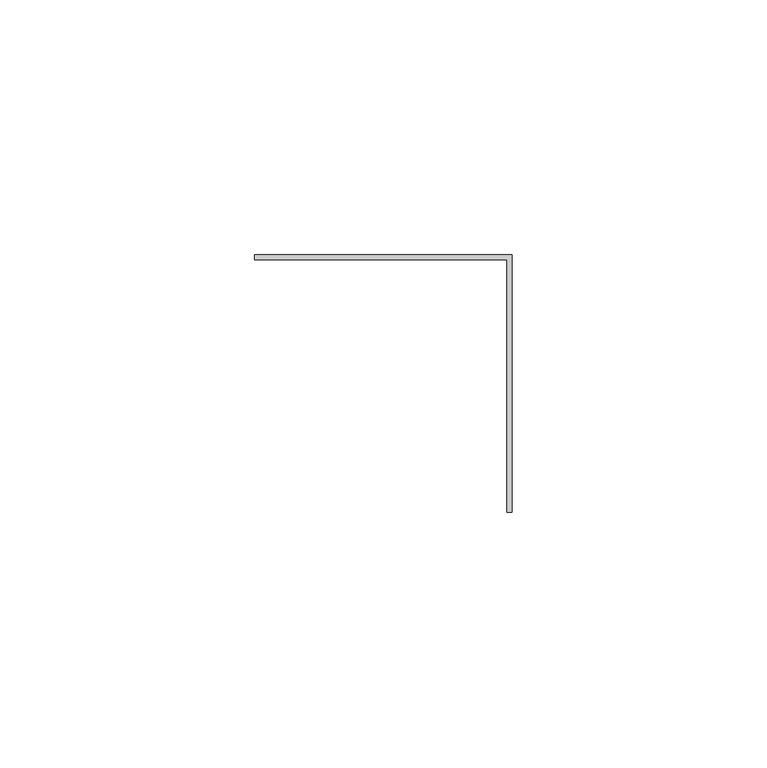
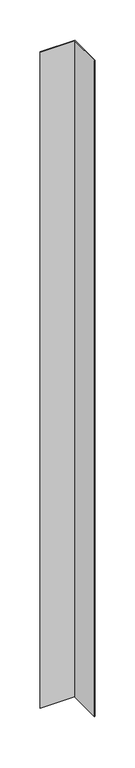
"""IFC4 building model written with IfcOpenShell, lengths in millimetres: member geometry, Meneau d'angle en L : ATELIERS 3S_Angle sortant."""

from ifc_helpers import new_model, si_unit, frame, origin, place, context, project, spatial, polyline, outline, extrude, source, transform, mapped, element, save


def member_db60f157(model_context):
    return source(origin(), model_context, "Body", "SweptSolid", [
        extrude(outline(polyline([(37.5, -12.0), (37.5, 37.5), (-12.0, 37.5), (-12.0, 38.5), (38.5, 38.5), (38.5, -12.0), (37.5, -12.0)])), frame((0.0, 0.0, -1000.0), z_axis=(0.0, 0.0, 1.0), x_axis=(1.0, 0.0, 0.0)), (0.0, 0.0, 1.0), 1000.0),
    ])


if __name__ == "__main__":
    model = new_model("IFC4")
    model_context = context("Model", 3, world=origin())
    ifc_project = project(units=[si_unit("LENGTHUNIT", "METRE", prefix="MILLI")], contexts=[model_context])
    site = spatial("IfcSite", under=ifc_project)
    building = spatial("IfcBuilding", under=site)
    placement = place(None, origin())
    member_shape = member_db60f157(model_context)
    element("IfcMember", 1, ObjectType="Meneau d'angle en L : ATELIERS 3S_Angle sortant", at=placement, inside=building, context=model_context, shape_type="MappedRepresentation", body=[
        mapped(member_shape, transform((0.0, 0.0, 0.0), x_axis=(1.0, 0.0, 0.0), y_axis=(0.0, 1.0, 0.0), z_axis=(0.0, 0.0, 1.0))),
    ])
    save(model, "model.ifc")
